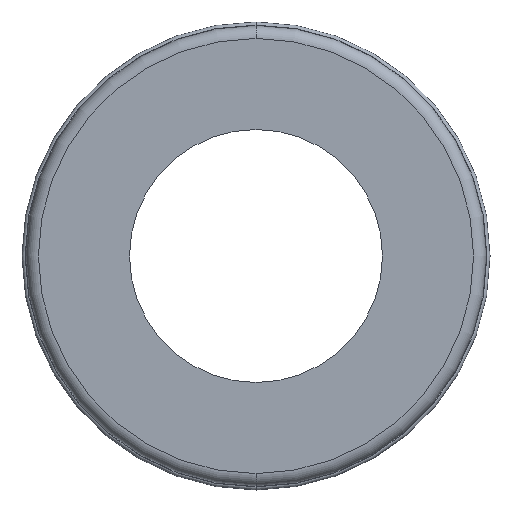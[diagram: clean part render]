
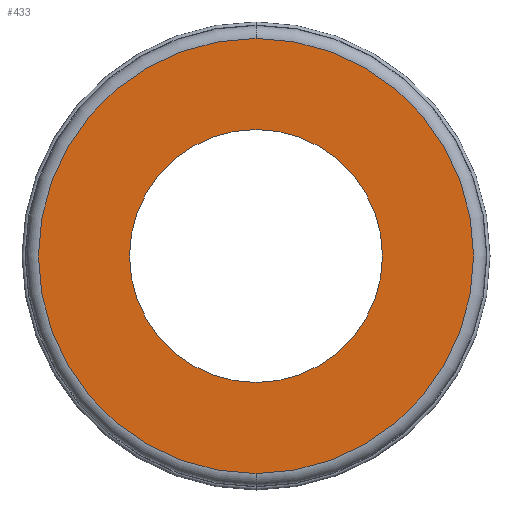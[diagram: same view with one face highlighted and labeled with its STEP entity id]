
A CAD part, front view. The second image highlights one B-rep face of the part: STEP entity #433.
In plain terms, the highlighted planar face has unit normal (0, -1, 0).
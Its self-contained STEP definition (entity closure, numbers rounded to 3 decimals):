
#33 = CARTESIAN_POINT ( 'NONE',  ( 0., 0., 10. ) ) ;
#64 = CARTESIAN_POINT ( 'NONE',  ( 0., 0., 0. ) ) ;
#67 = ORIENTED_EDGE ( 'NONE', *, *, #221, .F. ) ;
#72 = DIRECTION ( 'NONE',  ( 0., -1., 0. ) ) ;
#98 = DIRECTION ( 'NONE',  ( 0., 0., -1. ) ) ;
#111 = DIRECTION ( 'NONE',  ( 0., -1., 0. ) ) ;
#121 = VERTEX_POINT ( 'NONE', #484 ) ;
#127 = DIRECTION ( 'NONE',  ( 0., 0., -1. ) ) ;
#131 = ORIENTED_EDGE ( 'NONE', *, *, #713, .T. ) ;
#198 = FACE_OUTER_BOUND ( 'NONE', #280, .T. ) ;
#219 = VERTEX_POINT ( 'NONE', #400 ) ;
#221 = EDGE_CURVE ( 'NONE', #288, #121, #350, .T. ) ;
#256 = DIRECTION ( 'NONE',  ( 0., 0., -1. ) ) ;
#274 = AXIS2_PLACEMENT_3D ( 'NONE', #454, #569, #98 ) ;
#280 = EDGE_LOOP ( 'NONE', ( #131, #344 ) ) ;
#288 = VERTEX_POINT ( 'NONE', #33 ) ;
#289 = EDGE_CURVE ( 'NONE', #414, #219, #707, .T. ) ;
#310 = DIRECTION ( 'NONE',  ( 0., 0., -1. ) ) ;
#344 = ORIENTED_EDGE ( 'NONE', *, *, #289, .T. ) ;
#350 = CIRCLE ( 'NONE', #274, 10. ) ;
#395 = ORIENTED_EDGE ( 'NONE', *, *, #499, .F. ) ;
#400 = CARTESIAN_POINT ( 'NONE',  ( 0., 0., -17.2 ) ) ;
#414 = VERTEX_POINT ( 'NONE', #710 ) ;
#433 = ADVANCED_FACE ( 'NONE', ( #636, #198 ), #528, .T. ) ;
#447 = CIRCLE ( 'NONE', #597, 10. ) ;
#454 = CARTESIAN_POINT ( 'NONE',  ( 0., 0., 0. ) ) ;
#471 = CARTESIAN_POINT ( 'NONE',  ( 0., 0., 0. ) ) ;
#479 = AXIS2_PLACEMENT_3D ( 'NONE', #471, #111, #648 ) ;
#484 = CARTESIAN_POINT ( 'NONE',  ( 0., 0., -10. ) ) ;
#496 = DIRECTION ( 'NONE',  ( 0., -1., 0. ) ) ;
#499 = EDGE_CURVE ( 'NONE', #121, #288, #447, .T. ) ;
#504 = CARTESIAN_POINT ( 'NONE',  ( 0., 0., 0. ) ) ;
#528 = PLANE ( 'NONE',  #746 ) ;
#542 = EDGE_LOOP ( 'NONE', ( #67, #395 ) ) ;
#569 = DIRECTION ( 'NONE',  ( 0., -1., 0. ) ) ;
#574 = AXIS2_PLACEMENT_3D ( 'NONE', #504, #496, #256 ) ;
#593 = DIRECTION ( 'NONE',  ( 0., -1., 0. ) ) ;
#597 = AXIS2_PLACEMENT_3D ( 'NONE', #64, #72, #127 ) ;
#636 = FACE_BOUND ( 'NONE', #542, .T. ) ;
#648 = DIRECTION ( 'NONE',  ( 0., 0., -1. ) ) ;
#674 = CIRCLE ( 'NONE', #574, 17.2 ) ;
#707 = CIRCLE ( 'NONE', #479, 17.2 ) ;
#710 = CARTESIAN_POINT ( 'NONE',  ( 0., 0., 17.2 ) ) ;
#713 = EDGE_CURVE ( 'NONE', #219, #414, #674, .T. ) ;
#722 = CARTESIAN_POINT ( 'NONE',  ( 0., 0., 0. ) ) ;
#746 = AXIS2_PLACEMENT_3D ( 'NONE', #722, #593, #310 ) ;
